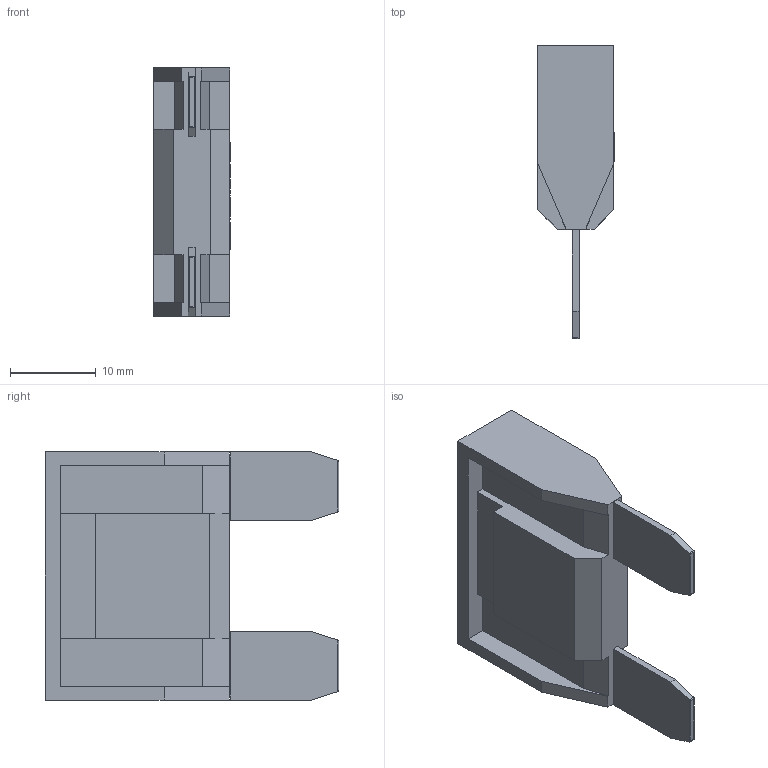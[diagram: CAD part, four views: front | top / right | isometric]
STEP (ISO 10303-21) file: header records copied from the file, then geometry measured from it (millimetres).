
FILE_DESCRIPTION(/* description */ (''),/* implementation_level */ '2;1');
FILE_NAME(/* name */ 'C:\Users\Hani\Desktop\work\ANX\ANX.stp',/* time_stamp */ '2021-10-02T17:31:38-07:00',/* author */ ('Hani'),/* organization */ (''),/* preprocessor_version */ 'ST-DEVELOPER v17',/* originating_system */ 'Autodesk Inventor 2019',/* authorisation */ '');
FILE_SCHEMA (('AUTOMOTIVE_DESIGN { 1 0 10303 214 3 1 1 }'));
Length unit declared in the file: inch
Products named in the file (1): ANX
Bounding box: 8.95 x 34.3 x 29 mm (x, y, z)
Volume: 4252.6 mm3; surface area: 2877.2 mm2
Topology: 3 solids, 3 shells, 196 faces, 534 edges, 356 vertices
Faces by surface type: plane 121, bspline 67, cylinder 8
Entity records: 6729 total; most frequent: CARTESIAN_POINT 2172, ORIENTED_EDGE 1068, DIRECTION 676, EDGE_CURVE 534, LINE 384, VECTOR 384, VERTEX_POINT 356, EDGE_LOOP 208
